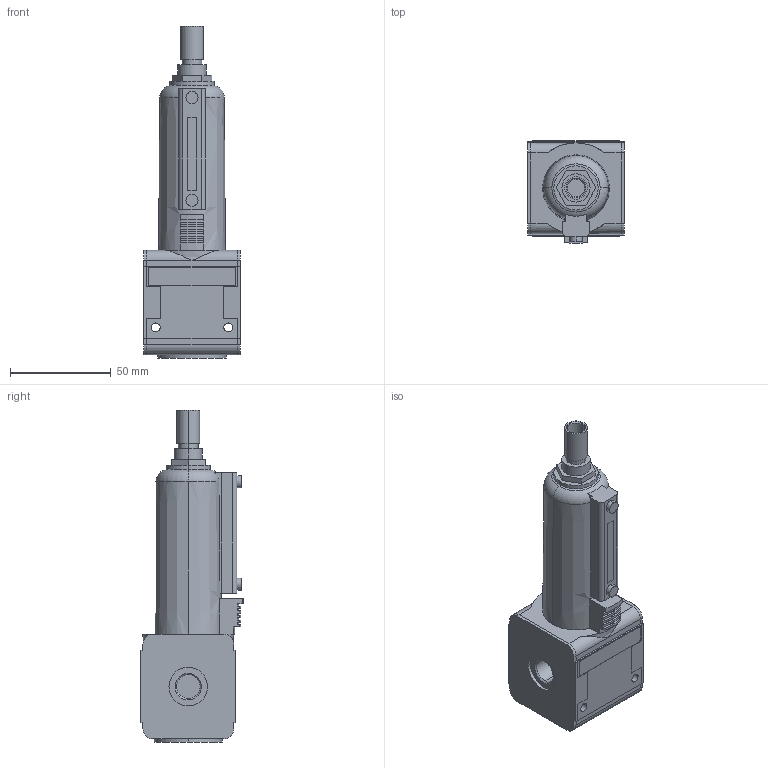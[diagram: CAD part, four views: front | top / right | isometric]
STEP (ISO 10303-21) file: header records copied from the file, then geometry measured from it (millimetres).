
FILE_DESCRIPTION((''),'2;1');
FILE_NAME('0821303405_ASM','2019-02-22T',('PDH2HC'),(''),'CREO PARAMETRIC BY PTC INC, 2016260','CREO PARAMETRIC BY PTC INC, 2016260','');
FILE_SCHEMA(('CONFIG_CONTROL_DESIGN'));
Length unit declared in the file: millimetre
Products named in the file (4): 0821303405-A; 0821303405-B; 0821303405-D; 0821303405_ASM
Assembly tree (4 placements, depth 2):
  0821303405_ASM
    0821303405-A
    0821303405-B
    0821303405-D  x2
Bounding box: 48 x 51.13 x 165 mm (x, y, z)
Volume: 191606.6 mm3; surface area: 39619.6 mm2
Topology: 4 solids, 4 shells, 200 faces, 523 edges, 344 vertices
Faces by surface type: plane 130, cylinder 58, cone 10, torus 2
Entity records: 5466 total; most frequent: CARTESIAN_POINT 1028, DIRECTION 912, ORIENTED_EDGE 890, EDGE_CURVE 445, VECTOR 318, LINE 318, AXIS2_PLACEMENT_3D 297, VERTEX_POINT 292
